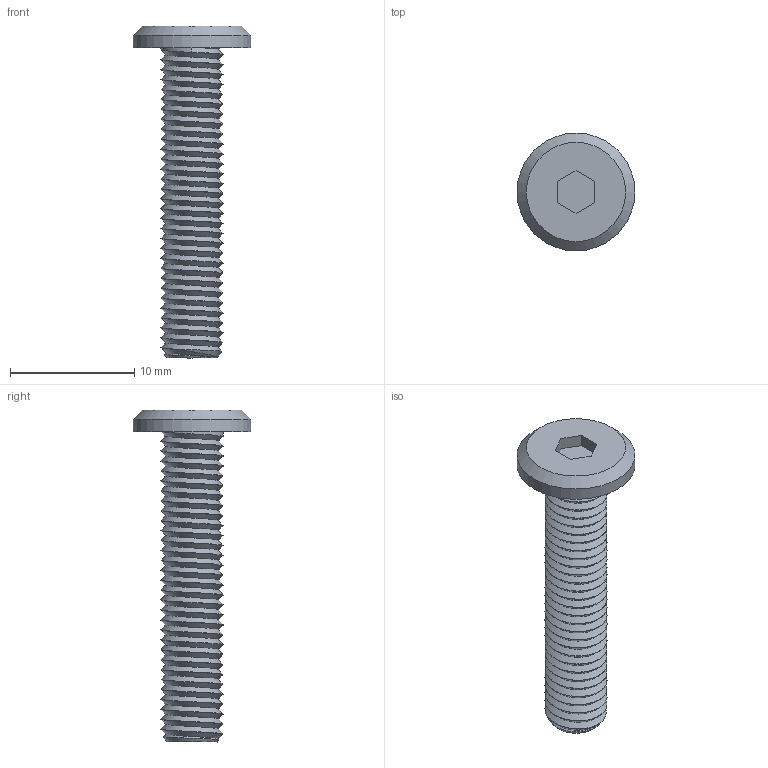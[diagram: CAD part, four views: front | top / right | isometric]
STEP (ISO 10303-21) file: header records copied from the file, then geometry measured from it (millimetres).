
FILE_DESCRIPTION(/* description */ ('STEP AP242 Edition 2','CAx-IF Rec.Pracs.---Representation and Presentation of Product Manufacturing Information (PMI)---4.0---2014-10-13','CAx-IF Rec.Pracs.---3D Tessellated Geometry---0.4---2014-09-14','2;1','CAx-IF Rec.Pracs.---User Defined Attributes---1.5---2016-08-15'),/* implementation_level */ '2;1');
FILE_NAME(/* name */ 'Final Build - M5x25 (9)',/* time_stamp */ '2026-08-31T23:26:18Z',/* author */ (''),/* organization */ (''),/* preprocessor_version */ 'ST-DEVELOPER v20',/* originating_system */ 'ONSHAPE BY PTC INC, 1.220',/* authorisation */ ' ');
FILE_SCHEMA (('AP242_MANAGED_MODEL_BASED_3D_ENGINEERING_MIM_LF { 1 0 10303 442 3 1 4 }'));
Length unit declared in the file: metre
Products named in the file (1): M5x25
Bounding box: 9.5 x 9.5 x 26.75 mm (x, y, z)
Volume: 527 mm3; surface area: 692 mm2
Topology: 1 solids, 1 shells, 18 faces, 41 edges, 27 vertices
Faces by surface type: plane 11, cylinder 3, bspline 2, cone 2
Full cylindrical faces by diameter (mm): 9.5 x1
Entity records: 8136 total; most frequent: CARTESIAN_POINT 7750, ORIENTED_EDGE 72, DIRECTION 68, EDGE_CURVE 36, VERTEX_POINT 25, AXIS2_PLACEMENT_3D 24, EDGE_LOOP 23, FACE_BOUND 23
